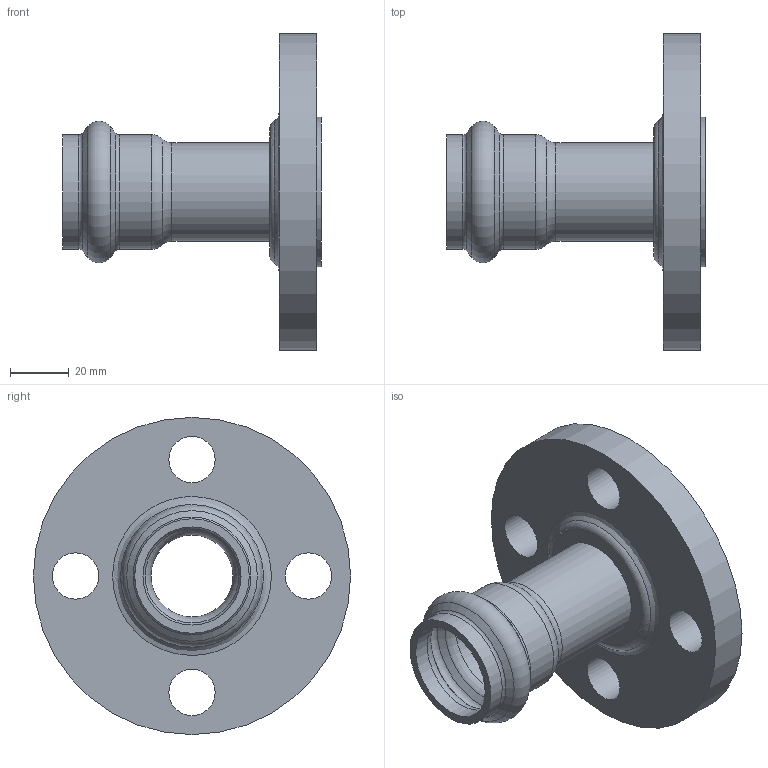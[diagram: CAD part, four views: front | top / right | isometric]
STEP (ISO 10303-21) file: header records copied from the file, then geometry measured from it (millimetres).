
FILE_DESCRIPTION(/* description */ ('VIC FLANGE ADAPTER STYLE P595','CAx-IF Rec.Pracs.---Representation and Presentation of Product Manufacturing Information (PMI)---4.0---2014-10-13'),/* implementation_level */ '2;1');
FILE_NAME(/* name */ 'C:\Users\Vjadhav\AppData\Roaming\Autodesk\ApplicationPlugins\Back Up\Victaulic_SS-Vic-Press-TP 304_Flange Adapter_CL 150 RF_Style P595 (VPxFLG)\Victaulic_SS-Vic-Press-TP 304_Flange Adapter_CL 150 RF_Style P595 (VPxFLG)_1 (25).stp',/* time_stamp */ '2020-08-12T17:42:01+05:00',/* author */ ('cgray'),/* organization */ ('Victaulic'),/* preprocessor_version */ 'ST-DEVELOPER v17.2',/* originating_system */ 'Autodesk Inventor 2019',/* authorisation */ '');
FILE_SCHEMA (('AP242_MANAGED_MODEL_BASED_3D_ENGINEERING_MIM_LF { 1 0 10303 442 1 1 4 }'));
Length unit declared in the file: inch
Products named in the file (1): P595-01.0
Bounding box: 87.88 x 107.95 x 107.95 mm (x, y, z)
Volume: 127274.5 mm3; surface area: 40543.8 mm2
Topology: 1 solids, 1 shells, 33 faces, 113 edges, 85 vertices
Faces by surface type: cylinder 12, torus 11, plane 5, cone 4, bspline 1
Full cylindrical faces by diameter (mm): 15.748 x4, 27.864 x1, 33.401 x3, 38.938 x2, 50.8 x1, 107.95 x1
Entity records: 1677 total; most frequent: CARTESIAN_POINT 417, DIRECTION 296, ORIENTED_EDGE 226, AXIS2_PLACEMENT_3D 140, EDGE_CURVE 113, CIRCLE 94, VERTEX_POINT 85, EDGE_LOOP 46
